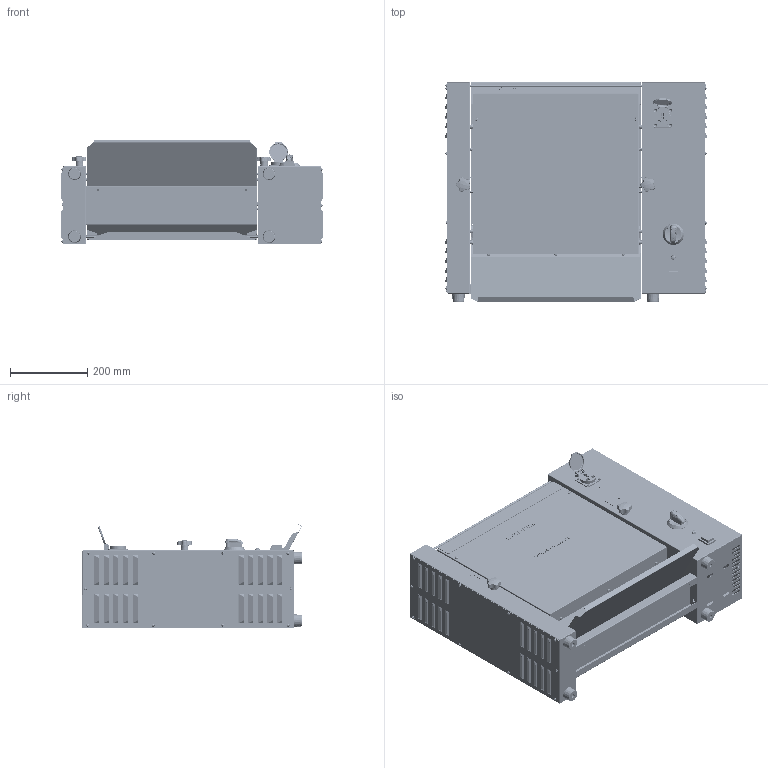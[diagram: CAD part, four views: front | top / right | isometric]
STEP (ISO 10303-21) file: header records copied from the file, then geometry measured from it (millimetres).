
FILE_DESCRIPTION (( 'STEP AP214' ), '1' );
FILE_NAME ('pres-CTV600B.STEP', '2025-01-29T10:34:16', ( '' ), ( '' ), 'SwSTEP 2.0', 'SolidWorks 2025', '' );
FILE_SCHEMA (( 'AUTOMOTIVE_DESIGN' ));
Length unit declared in the file: millimetre
Products named in the file (135): cross recessed cheese head screws gb-5-solid1_1def_cross recessed cheese head screws gb-5-solid1_1; PA10139_1def_PA10139_1; cross recessed round head wood screws gb-6-solid1_1def_cross recessed round head wood screws gb-6-solid1_1; cross recessed cheese head screws gb-1-solid1_1def_cross recessed cheese head screws gb-1-solid1_1; Etiquette-ep-gauche-toasteur-vertical-chiffre; cross recessed round head wood screws gb-8-solid1_1def_cross recessed round head wood screws gb-8-solid1_1; __________U____-1-solid1_1def___________U____-1-solid1_1; PA10139 ______________-1-solid1_3def_PA10139 ______________-1-solid1_3; plain washers-l series-grades ac gb-5-solid1_1def_plain washers-l series-grades ac gb-5-solid1_1; PA10139 __________-2-solid1_1def_PA10139 __________-2-solid1_1; single coil lock washers light type gb-10-solid1_1def_single coil lock washers light type gb-10-solid1_1; Plaque-graduation-toasteur-2; single coil lock washers light type gb-12-solid1_1def_single coil lock washers light type gb-12-solid1_1; IP55______-1-solid1_1def_IP55______-1-solid1_1; cross recessed cheese head screws gb-9-solid1_1def_cross recessed cheese head screws gb-9-solid1_1; cross recessed round head wood screws gb-9-solid1_1def_cross recessed round head wood screws gb-9-solid1_1; PA10139 __________-1-solid1_3def_PA10139 __________-1-solid1_3; single coil lock washers light type gb-6-solid1_1def_single coil lock washers light type gb-6-solid1_1; cross recessed round head wood screws gb-13-solid1_1def_cross recessed round head wood screws gb-13-solid1_1; M01____ __-1-solid1_2def_M01____ __-1-solid1_2; cross recessed round head wood screws gb-20-solid1_1def_cross recessed round head wood screws gb-20-solid1_1; M8____ ________-1-solid1_1def_M8____ ________-1-solid1_1; single coil lock washers light type gb-3-solid1_1def_single coil lock washers light type gb-3-solid1_1; PA10139_4def_PA10139_4; cross recessed round head wood screws gb-18-solid1_1def_cross recessed round head wood screws gb-18-solid1_1; PA10139 ________-1-solid1_1def_PA10139 ________-1-solid1_1; __________U____-2-solid1_1def___________U____-2-solid1_1; hex nuts, style 1-grades ab gb-5-solid1_1def_hex nuts, style 1-grades ab gb-5-solid1_1; cross recessed cheese head screws gb-11-solid1_1def_cross recessed cheese head screws gb-11-solid1_1; cross recessed cheese head screws gb-8-solid1_1def_cross recessed cheese head screws gb-8-solid1_1; PA10139 ________________-3-solid1_1def_PA10139 ________________-3-solid1_1; cross recessed cheese head screws gb-4-solid1_1def_cross recessed cheese head screws gb-4-solid1_1; cross recessed round head wood screws gb-12-solid1_1def_cross recessed round head wood screws gb-12-solid1_1; plain washers-l series-grades ac gb-2-solid1_1def_plain washers-l series-grades ac gb-2-solid1_1; IP55________ -1-solid5_1def_IP55________ -1-solid5_1; PA10139 ______-1-solid1_1def_PA10139 ______-1-solid1_1; PA10139 ______________-1-solid1_2def_PA10139 ______________-1-solid1_2; single coil lock washers light type gb-14-solid1_1def_single coil lock washers light type gb-14-solid1_1; IP55________-1-solid1_2def_IP55________-1-solid1_2; Etiquette-ep-gauche-toasteur-vertical-sans-chiffre-Symetrique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
Assembly tree (139 placements, depth 3):
  pres-CTV600B
    __________-1-solid1_1def___________-1-solid1_1
    PA10139 __________-2-solid1_1def_PA10139 __________-2-solid1_1
    IP55________ -1-solid8_1def_IP55________ -1-solid8_1
    IP55________-1-solid1_1def_IP55________-1-solid1_1
    single coil lock washers light type gb-3-solid1_1def_single coil lock washers light type gb-3-solid1_1
    hexagon socket head cap screws gb-3-solid1_1def_hexagon socket head cap screws gb-3-solid1_1
    cross recessed round head wood screws gb-8-solid1_1def_cross recessed round head wood screws gb-8-solid1_1
    cross recessed cheese head screws gb-11-solid1_1def_cross recessed cheese head screws gb-11-solid1_1
    plain washers-l series-grades ac gb-4-solid1_1def_plain washers-l series-grades ac gb-4-solid1_1
    single coil lock washers light type gb-12-solid1_1def_single coil lock washers light type gb-12-solid1_1
    cross recessed round head wood screws gb-21-solid1_1def_cross recessed round head wood screws gb-21-solid1_1
    single coil lock washers light type gb-1-solid1_1def_single coil lock washers light type gb-1-solid1_1
    PA10139 ________________-4-solid1_1def_PA10139 ________________-4-solid1_1
    hex nuts, style 1-grades ab gb-5-solid1_1def_hex nuts, style 1-grades ab gb-5-solid1_1
    hexagon socket head cap screws gb-2-solid1_1def_hexagon socket head cap screws gb-2-solid1_1
    cross recessed round head wood screws gb-9-solid1_1def_cross recessed round head wood screws gb-9-solid1_1
    PA10139 ______-1-solid1_1def_PA10139 ______-1-solid1_1
    plain washers-l series-grades ac gb-5-solid1_1def_plain washers-l series-grades ac gb-5-solid1_1
    plain washers-l series-grades ac gb-8-solid1_1def_plain washers-l series-grades ac gb-8-solid1_1
    cross recessed round head wood screws gb-12-solid1_1def_cross recessed round head wood screws gb-12-solid1_1
    plain washers-l series-grades ac gb-6-solid1_1def_plain washers-l series-grades ac gb-6-solid1_1
    IP55________ -1-solid3_1def_IP55________ -1-solid3_1
    plain washers-l series-grades ac gb-3-solid1_1def_plain washers-l series-grades ac gb-3-solid1_1
    IP55________ -1-solid2_1def_IP55________ -1-solid2_1
    M01____ ________-1-solid1_1def_M01____ ________-1-solid1_1
    cross recessed cheese head screws gb-9-solid1_1def_cross recessed cheese head screws gb-9-solid1_1
    hex nuts, style 1-grades ab gb-3-solid1_1def_hex nuts, style 1-grades ab gb-3-solid1_1
    PA10139 ______________-1-solid1_1def_PA10139 ______________-1-solid1_1
    cross recessed round head wood screws gb-7-solid1_1def_cross recessed round head wood screws gb-7-solid1_1
    IP55________ -1-solid6_1def_IP55________ -1-solid6_1
    cross recessed cheese head screws gb-7-solid1_1def_cross recessed cheese head screws gb-7-solid1_1
    hexagon socket head cap screws gb-4-solid1_1def_hexagon socket head cap screws gb-4-solid1_1
    cross recessed cheese head screws gb-1-solid1_1def_cross recessed cheese head screws gb-1-solid1_1
    single coil lock washers light type gb-2-solid1_1def_single coil lock washers light type gb-2-solid1_1
    PA10139 ________-1-solid1_1def_PA10139 ________-1-solid1_1
    hex nuts, style 1-grades ab gb-8-solid1_1def_hex nuts, style 1-grades ab gb-8-solid1_1
    plain washers--product grade c gb-7-solid1_1def_plain washers--product grade c gb-7-solid1_1
    hexagon socket head cap screws gb-1-solid1_1def_hexagon socket head cap screws gb-1-solid1_1
    cross recessed cheese head screws gb-2-solid1_1def_cross recessed cheese head screws gb-2-solid1_1
    PA10139 __________-1-solid1_1def_PA10139 __________-1-solid1_1
    cross recessed round head wood screws gb-10-solid1_1def_cross recessed round head wood screws gb-10-solid1_1
    plain washers--product grade c gb-6-solid1_1def_plain washers--product grade c gb-6-solid1_1
    single coil lock washers light type gb-10-solid1_1def_single coil lock washers light type gb-10-solid1_1
    PA10139 ________________-3-solid1_1def_PA10139 ________________-3-solid1_1
    IP55________ -1-solid1_1def_IP55________ -1-solid1_1
    cross recessed round head wood screws gb-18-solid1_1def_cross recessed round head wood screws gb-18-solid1_1
    cross recessed round head wood screws gb-11-solid1_1def_cross recessed round head wood screws gb-11-solid1_1
    ________-1-solid1_1def_________-1-solid1_1
    PA10139_1def_PA10139_1
    PA10139 ______-1-solid1_2def_PA10139 ______-1-solid1_2
    cross recessed round head wood screws gb-15-solid1_1def_cross recessed round head wood screws gb-15-solid1_1
    cross recessed cheese head screws gb-12-solid1_1def_cross recessed cheese head screws gb-12-solid1_1
    IP55________-1-solid1_2def_IP55________-1-solid1_2
    __________U____-2-solid1_1def___________U____-2-solid1_1
    plain washers-l series-grades ac gb-2-solid1_1def_plain washers-l series-grades ac gb-2-solid1_1
    M8____ ________-1-solid1_1def_M8____ ________-1-solid1_1
    PA10139 ________________-1-solid1_1def_PA10139 ________________-1-solid1_1
    plain washers-l series-grades ac gb-7-solid1_1def_plain washers-l series-grades ac gb-7-solid1_1
    PA10139 ______________-4-solid1_1def_PA10139 ______________-4-solid1_1
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Bounding box: 682.36 x 570.13 x 271.89 mm (x, y, z)
Volume: 3850300.3 mm3; surface area: 4157167.5 mm2
Topology: 181 solids, 187 shells, 6760 faces, 16300 edges, 10096 vertices
Faces by surface type: plane 3286, cylinder 1988, bspline 837, cone 372, torus 221, sphere 56
Entity records: 252463 total; most frequent: CARTESIAN_POINT 85814, ORIENTED_EDGE 31552, DIRECTION 29768, EDGE_CURVE 15776, AXIS2_PLACEMENT_3D 10532, VERTEX_POINT 9807, VECTOR 8704, LINE 8704
